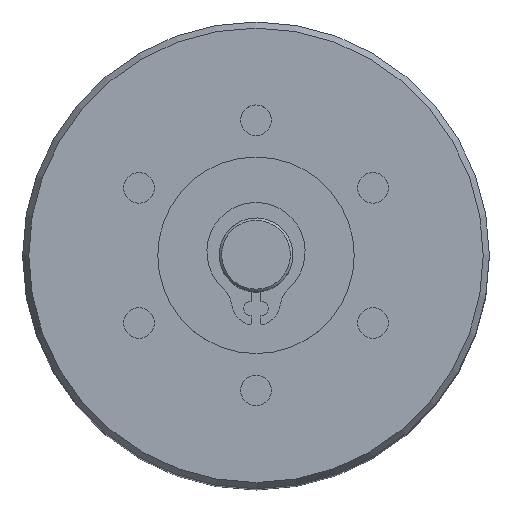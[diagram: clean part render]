
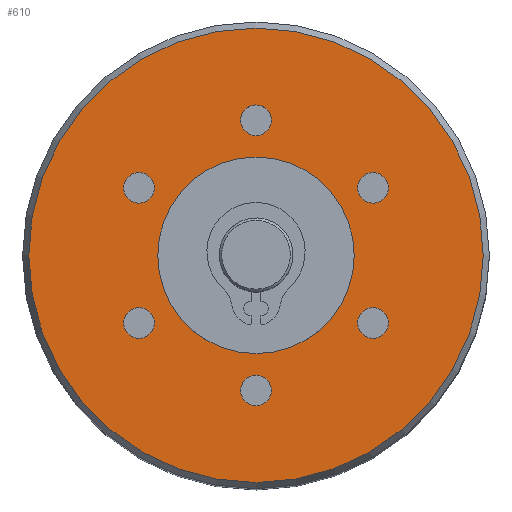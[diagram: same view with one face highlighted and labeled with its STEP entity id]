
A CAD part, top view. The second image highlights one B-rep face of the part: STEP entity #610.
In plain terms, the highlighted planar face has unit normal (0, 0, 1).
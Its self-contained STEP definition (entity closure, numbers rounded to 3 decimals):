
#142=FACE_BOUND('',#1001,.T.);
#143=FACE_BOUND('',#1002,.T.);
#144=FACE_BOUND('',#1003,.T.);
#145=FACE_BOUND('',#1004,.T.);
#146=FACE_BOUND('',#1005,.T.);
#147=FACE_BOUND('',#1006,.T.);
#148=FACE_BOUND('',#1007,.T.);
#149=FACE_BOUND('',#1008,.T.);
#610=ADVANCED_FACE('',(#142,#143,#144,#145,#146,#147,#148,#149),#765,.T.);
#765=PLANE('',#2832);
#1001=EDGE_LOOP('',(#1391));
#1002=EDGE_LOOP('',(#1392));
#1003=EDGE_LOOP('',(#1393));
#1004=EDGE_LOOP('',(#1394));
#1005=EDGE_LOOP('',(#1395));
#1006=EDGE_LOOP('',(#1396));
#1007=EDGE_LOOP('',(#1397));
#1008=EDGE_LOOP('',(#1398));
#1391=ORIENTED_EDGE('',*,*,#2339,.T.);
#1392=ORIENTED_EDGE('',*,*,#2340,.T.);
#1393=ORIENTED_EDGE('',*,*,#2341,.T.);
#1394=ORIENTED_EDGE('',*,*,#2342,.T.);
#1395=ORIENTED_EDGE('',*,*,#2343,.T.);
#1396=ORIENTED_EDGE('',*,*,#2344,.T.);
#1397=ORIENTED_EDGE('',*,*,#2345,.T.);
#1398=ORIENTED_EDGE('',*,*,#2346,.F.);
#2055=VERTEX_POINT('',#4283);
#2056=VERTEX_POINT('',#4285);
#2057=VERTEX_POINT('',#4287);
#2058=VERTEX_POINT('',#4289);
#2059=VERTEX_POINT('',#4291);
#2060=VERTEX_POINT('',#4293);
#2061=VERTEX_POINT('',#4295);
#2062=VERTEX_POINT('',#4297);
#2339=EDGE_CURVE('',#2055,#2055,#2621,.T.);
#2340=EDGE_CURVE('',#2056,#2056,#2622,.T.);
#2341=EDGE_CURVE('',#2057,#2057,#2623,.T.);
#2342=EDGE_CURVE('',#2058,#2058,#2624,.T.);
#2343=EDGE_CURVE('',#2059,#2059,#2625,.T.);
#2344=EDGE_CURVE('',#2060,#2060,#2626,.T.);
#2345=EDGE_CURVE('',#2061,#2061,#2627,.T.);
#2346=EDGE_CURVE('',#2062,#2062,#2628,.T.);
#2621=CIRCLE('',#2824,1.25);
#2622=CIRCLE('',#2825,1.25);
#2623=CIRCLE('',#2826,1.25);
#2624=CIRCLE('',#2827,1.25);
#2625=CIRCLE('',#2828,1.25);
#2626=CIRCLE('',#2829,1.25);
#2627=CIRCLE('',#2830,18.5);
#2628=CIRCLE('',#2831,8.);
#2824=AXIS2_PLACEMENT_3D('',#4282,#3353,#3354);
#2825=AXIS2_PLACEMENT_3D('',#4284,#3355,#3356);
#2826=AXIS2_PLACEMENT_3D('',#4286,#3357,#3358);
#2827=AXIS2_PLACEMENT_3D('',#4288,#3359,#3360);
#2828=AXIS2_PLACEMENT_3D('',#4290,#3361,#3362);
#2829=AXIS2_PLACEMENT_3D('',#4292,#3363,#3364);
#2830=AXIS2_PLACEMENT_3D('',#4294,#3365,#3366);
#2831=AXIS2_PLACEMENT_3D('',#4296,#3367,#3368);
#2832=AXIS2_PLACEMENT_3D('',#4298,#3369,#3370);
#3353=DIRECTION('',(0.,0.,-1.));
#3354=DIRECTION('',(-0.5,0.866,0.));
#3355=DIRECTION('',(0.,0.,-1.));
#3356=DIRECTION('',(0.5,0.866,0.));
#3357=DIRECTION('',(0.,0.,-1.));
#3358=DIRECTION('',(1.,0.,0.));
#3359=DIRECTION('',(0.,0.,-1.));
#3360=DIRECTION('',(0.5,-0.866,0.));
#3361=DIRECTION('',(0.,0.,-1.));
#3362=DIRECTION('',(-0.5,-0.866,0.));
#3363=DIRECTION('',(0.,0.,-1.));
#3364=DIRECTION('',(-1.,0.,0.));
#3365=DIRECTION('',(0.,0.,1.));
#3366=DIRECTION('',(1.,0.,0.));
#3367=DIRECTION('',(0.,0.,1.));
#3368=DIRECTION('',(1.,0.,0.));
#3369=DIRECTION('',(0.,0.,1.));
#3370=DIRECTION('',(1.,0.,0.));
#4282=CARTESIAN_POINT('',(9.526,5.5,0.));
#4283=CARTESIAN_POINT('',(8.901,6.583,0.));
#4284=CARTESIAN_POINT('',(9.526,-5.5,0.));
#4285=CARTESIAN_POINT('',(10.151,-4.417,0.));
#4286=CARTESIAN_POINT('',(0.,-11.,0.));
#4287=CARTESIAN_POINT('',(1.25,-11.,0.));
#4288=CARTESIAN_POINT('',(-9.526,-5.5,0.));
#4289=CARTESIAN_POINT('',(-8.901,-6.583,0.));
#4290=CARTESIAN_POINT('',(-9.526,5.5,0.));
#4291=CARTESIAN_POINT('',(-10.151,4.417,0.));
#4292=CARTESIAN_POINT('',(0.,11.,0.));
#4293=CARTESIAN_POINT('',(-1.25,11.,0.));
#4294=CARTESIAN_POINT('',(0.,0.,0.));
#4295=CARTESIAN_POINT('',(18.5,0.,0.));
#4296=CARTESIAN_POINT('',(0.,0.,0.));
#4297=CARTESIAN_POINT('',(8.,0.,0.));
#4298=CARTESIAN_POINT('',(0.,0.,0.));
